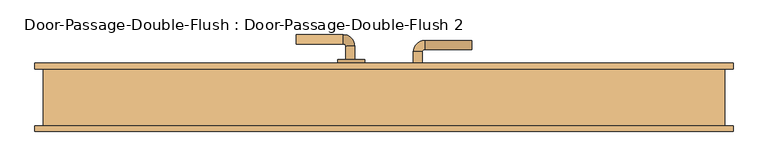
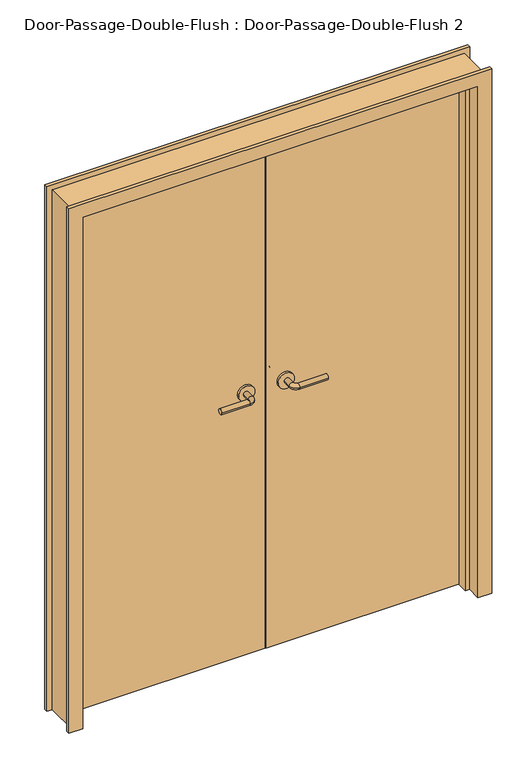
"""IFC4 building model written with IfcOpenShell, lengths in millimetres: door geometry, Door-Passage-Double-Flush : Door-Passage-Double-Flush 2."""

import ifcopenshell
import ifcopenshell.guid

model = None  # the IFC model being written
_history = None  # IfcOwnerHistory: only IFC2X3 demands one
_inside = {}  # id of a spatial element -> (the spatial element, [elements in it])
_under = {}  # id of a project, library or spatial element -> (it, [spatial elements below it])
_declared = {}  # id of a project -> (the project, [libraries it declares])
_typed = {}  # id of a type object -> (the type object, [elements of that type])
_made_of = {}  # id of a material, layer set ... -> (it, [elements and type objects made of it])


def new_model(schema):
    """Start an empty IFC model of exactly this schema.

    Asked for "IFC4X3", IfcOpenShell would pick the latest addendum, in which some entities
    have other attributes; the version numbers below select the first issue.
    IFC2X3 requires an IfcOwnerHistory on every rooted entity: one is made here for all.
    """
    global model, _history
    if schema == "IFC4X3":
        model = ifcopenshell.file(schema_version=(4, 3, 0, 0))
    else:
        model = ifcopenshell.file(schema=schema)
    _inside.clear()
    _under.clear()
    _declared.clear()
    _typed.clear()
    _made_of.clear()
    _history = None
    if model.schema == "IFC2X3":
        org = make("IfcOrganization", Name="unknown")
        user = make(
            "IfcPersonAndOrganization",
            ThePerson=make("IfcPerson", FamilyName="unknown"),
            TheOrganization=org,
        )
        app = make(
            "IfcApplication",
            ApplicationDeveloper=org,
            Version="unknown",
            ApplicationFullName="unknown",
            ApplicationIdentifier="unknown",
        )
        _history = make(
            "IfcOwnerHistory",
            OwningUser=user,
            OwningApplication=app,
            ChangeAction="ADDED",
            CreationDate=0,
        )
    return model


def make(cls, **values):
    """One entity of the class cls with the attributes given. An attribute that is None is left unset."""
    return model.create_entity(
        cls, **{name: value for name, value in values.items() if value is not None}
    )


def rooted(cls, **values):
    """An entity with a GlobalId (a new one), such as an element, a storey or a relation."""
    return make(cls, GlobalId=ifcopenshell.guid.new(), OwnerHistory=_history, **values)


def si_unit(unit_type, name, prefix=None):
    """IfcSIUnit, for example si_unit("LENGTHUNIT", "METRE", prefix="MILLI")."""
    return make("IfcSIUnit", UnitType=unit_type, Prefix=prefix, Name=name)


def assignment(units):
    """IfcUnitAssignment: the units of a project."""
    return None if units is None else make("IfcUnitAssignment", Units=units)


def point(xyz):
    """IfcCartesianPoint."""
    return None if xyz is None else make("IfcCartesianPoint", Coordinates=xyz)


def direction(xyz):
    """IfcDirection."""
    return None if xyz is None else make("IfcDirection", DirectionRatios=xyz)


def frame(location, z_axis=None, x_axis=None):
    """IfcAxis2Placement3D, a coordinate frame: its origin and axes. An axis left out is left unset."""
    return make(
        "IfcAxis2Placement3D",
        Location=point(location),
        Axis=direction(z_axis),
        RefDirection=direction(x_axis),
    )


def frame_2d(location, x_axis=None):
    """IfcAxis2Placement2D, a coordinate frame in the plane: its origin and x axis."""
    return make(
        "IfcAxis2Placement2D", Location=point(location), RefDirection=direction(x_axis)
    )


def origin():
    """The frame at (0, 0, 0) with its axes left unset."""
    return frame((0.0, 0.0, 0.0))


def origin_with_axes():
    """The frame at (0, 0, 0) with the z axis (0, 0, 1) and the x axis (1, 0, 0) written out."""
    return frame((0.0, 0.0, 0.0), z_axis=(0.0, 0.0, 1.0), x_axis=(1.0, 0.0, 0.0))


def place(relative_to, where):
    """IfcLocalPlacement: puts the frame where relative to a parent placement (None: the world)."""
    return make(
        "IfcLocalPlacement", PlacementRelTo=relative_to, RelativePlacement=where
    )


def context(
    kind, dimensions, precision=None, world=None, true_north=None, identifier=None
):
    """IfcGeometricRepresentationContext, for example the 3D "Model" context."""
    return make(
        "IfcGeometricRepresentationContext",
        ContextIdentifier=identifier,
        ContextType=kind,
        CoordinateSpaceDimension=dimensions,
        Precision=precision,
        WorldCoordinateSystem=world,
        TrueNorth=true_north,
    )


def project(units=None, contexts=None):
    """IfcProject with its units and contexts."""
    return rooted(
        "IfcProject",
        Name="project",
        RepresentationContexts=contexts,
        UnitsInContext=assignment(units),
    )


def spatial(cls, under=None, at=None, **own):
    """A site, building, storey or space (cls), placed at a placement, below another one or the project."""
    s = rooted(cls, ObjectPlacement=at, **own)
    if under is not None:
        _under.setdefault(under.id(), (under, []))[1].append(s)
    return s


def polyline(points):
    """IfcPolyline through the points."""
    return make("IfcPolyline", Points=[point(p) for p in points])


def circle_curve(where, radius):
    """IfcCircle in the frame where."""
    return make("IfcCircle", Position=where, Radius=radius)


def ellipse_curve(where, semi_axis1, semi_axis2):
    """IfcEllipse in the frame where."""
    return make(
        "IfcEllipse", Position=where, SemiAxis1=semi_axis1, SemiAxis2=semi_axis2
    )


def trimmed(basis, trim1, trim2, sense, master):
    """IfcTrimmedCurve: the piece of a basis curve between two trims."""
    return make(
        "IfcTrimmedCurve",
        BasisCurve=basis,
        Trim1=trim1,
        Trim2=trim2,
        SenseAgreement=sense,
        MasterRepresentation=master,
    )


def segment(curve, same_sense, transition):
    """IfcCompositeCurveSegment."""
    return make(
        "IfcCompositeCurveSegment",
        Transition=transition,
        SameSense=same_sense,
        ParentCurve=curve,
    )


def composite_curve(segments, self_intersect=None):
    """IfcCompositeCurve: segments joined end to end."""
    return make("IfcCompositeCurve", Segments=segments, SelfIntersect=self_intersect)


def outline(outer, holes=None, kind="AREA"):
    """IfcArbitraryClosedProfileDef: a profile drawn as a closed curve; with holes, ...WithVoids."""
    if holes is None:
        return make("IfcArbitraryClosedProfileDef", ProfileType=kind, OuterCurve=outer)
    return make(
        "IfcArbitraryProfileDefWithVoids",
        ProfileType=kind,
        OuterCurve=outer,
        InnerCurves=holes,
    )


def extrude(swept, where, along, depth):
    """IfcExtrudedAreaSolid: the profile swept, set in the frame where, extruded along a direction by depth."""
    return make(
        "IfcExtrudedAreaSolid",
        SweptArea=swept,
        Position=where,
        ExtrudedDirection=direction(along),
        Depth=depth,
    )


def faces_of(points, faces, orient=None, outer=None):
    """IfcFace entities. A face is a list of loops; a loop is a list of indices into points, from 0.

    orient and outer hold one flag for each loop. By default every Orientation is true, the
    first loop of a face is its IfcFaceOuterBound and the others are IfcFaceBound.
    """
    made = []
    for i, loops in enumerate(faces):
        bounds = []
        for j, loop in enumerate(loops):
            is_outer = j == 0 if outer is None else outer[i][j]
            bounds.append(
                make(
                    "IfcFaceOuterBound" if is_outer else "IfcFaceBound",
                    Bound=make("IfcPolyLoop", Polygon=[points[k] for k in loop]),
                    Orientation=True if orient is None else orient[i][j],
                )
            )
        made.append(make("IfcFace", Bounds=bounds))
    return made


def faceted_brep(points, faces, orient=None, outer=None, voids=None):
    """IfcFacetedBrep: a solid bounded by flat faces; with voids (closed shells), ...WithVoids."""
    shared = [point(p) for p in points]
    hull = make("IfcClosedShell", CfsFaces=faces_of(shared, faces, orient, outer))
    if voids is None:
        return make("IfcFacetedBrep", Outer=hull)
    return make(
        "IfcFacetedBrepWithVoids",
        Outer=hull,
        Voids=[
            make(cls, CfsFaces=faces_of(shared, fs, o, b)) for cls, fs, o, b in voids
        ],
    )


def shape(context_of_items, identifier, shape_type, items):
    """IfcShapeRepresentation: the items that make up one representation, for example the "Body"."""
    return make(
        "IfcShapeRepresentation",
        ContextOfItems=context_of_items,
        RepresentationIdentifier=identifier,
        RepresentationType=shape_type,
        Items=items,
    )


def source(mapping_origin, context_of_items, identifier, shape_type, items):
    """IfcRepresentationMap: a shape defined once, which mapped items show again and again."""
    return make(
        "IfcRepresentationMap",
        MappingOrigin=mapping_origin,
        MappedRepresentation=shape(context_of_items, identifier, shape_type, items),
    )


def transform(
    local_origin,
    x_axis=None,
    y_axis=None,
    z_axis=None,
    scale=None,
    scale2=None,
    scale3=None,
    uniform=True,
):
    """IfcCartesianTransformationOperator3D, or its non-uniform kind. x_axis, y_axis, z_axis: its Axis1, 2, 3."""
    if uniform:
        return make(
            "IfcCartesianTransformationOperator3D",
            Axis1=direction(x_axis),
            Axis2=direction(y_axis),
            LocalOrigin=point(local_origin),
            Scale=scale,
            Axis3=direction(z_axis),
        )
    return make(
        "IfcCartesianTransformationOperator3DnonUniform",
        Axis1=direction(x_axis),
        Axis2=direction(y_axis),
        LocalOrigin=point(local_origin),
        Scale=scale,
        Axis3=direction(z_axis),
        Scale2=scale2,
        Scale3=scale3,
    )


def mapped(mapping_source, mapping_target):
    """IfcMappedItem: shows the shape of a source again, moved by a transform."""
    return make(
        "IfcMappedItem", MappingSource=mapping_source, MappingTarget=mapping_target
    )


def made_of(thing, what):
    """Note that an element or type object is made of a material, layer set ...; save() writes the relation."""
    if what is not None:
        _made_of.setdefault(what.id(), (what, []))[1].append(thing)
    return thing


def element(
    cls,
    number,
    at=None,
    inside=None,
    cuts=None,
    type_object=None,
    material=None,
    context=None,
    identifier="Body",
    shape_type=None,
    held_by="IfcProductDefinitionShape",
    body=None,
    shapes=None,
    **own,
):
    """One element of the class cls, such as IfcWall. Its Tag is "e" and its number.

    at: its placement. inside: the storey or other place that contains it. cuts: it is an
    opening in that element (IfcRelVoidsElement). A single representation is given by context,
    identifier, shape_type and body (its items); several are given by shapes. held_by: the class
    of the entity that holds the representations. save() writes the other relations.
    """
    e = rooted(cls, Tag="e%d" % number, ObjectPlacement=at, **own)
    if body is not None:
        shapes = [shape(context, identifier, shape_type, body)]
    if shapes is not None:
        e.Representation = make(held_by, Representations=shapes)
    if inside is not None:
        _inside.setdefault(inside.id(), (inside, []))[1].append(e)
    if cuts is not None:
        rooted(
            "IfcRelVoidsElement", RelatingBuildingElement=cuts, RelatedOpeningElement=e
        )
    if type_object is not None:
        _typed.setdefault(type_object.id(), (type_object, []))[1].append(e)
    return made_of(e, material)


def aggregate(whole, parts):
    """IfcRelAggregates: a whole, such as a stair, and the parts it consists of."""
    return rooted("IfcRelAggregates", RelatingObject=whole, RelatedObjects=parts)


def save(model, path):
    """Write the relations noted so far, then the file.

    IfcRelAggregates (storeys below a building ...), IfcRelContainedInSpatialStructure (elements
    in a storey), IfcRelDefinesByType, IfcRelAssociatesMaterial and IfcRelDeclares: one each for
    every whole, place, type object, material and project.
    """
    for whole, parts in _under.values():
        aggregate(whole, parts)
    for where, things in _inside.values():
        rooted(
            "IfcRelContainedInSpatialStructure",
            RelatedElements=things,
            RelatingStructure=where,
        )
    for kind, things in _typed.values():
        rooted("IfcRelDefinesByType", RelatedObjects=things, RelatingType=kind)
    for what, things in _made_of.values():
        rooted("IfcRelAssociatesMaterial", RelatedObjects=things, RelatingMaterial=what)
    for by, libraries in _declared.values():
        rooted("IfcRelDeclares", RelatingContext=by, RelatedDefinitions=libraries)
    model.write(path)


def plane_surface(at):
    """IfcPlane: the flat surface through the origin of the frame at, square to its z axis."""
    return make("IfcPlane", Position=at)


def cylinder_surface(at, radius):
    """IfcCylindricalSurface: all points at the distance radius from the z axis of the frame at."""
    return make("IfcCylindricalSurface", Position=at, Radius=radius)


def revolved_surface(curve, axis_point, axis_direction):
    """IfcSurfaceOfRevolution: the curve turned about the line through axis_point along axis_direction."""
    return make(
        "IfcSurfaceOfRevolution",
        SweptCurve=make("IfcArbitraryOpenProfileDef", ProfileType="CURVE", Curve=curve),
        AxisPosition=make("IfcAxis1Placement", Location=point(axis_point), Axis=direction(axis_direction)),
    )


def advanced_brep(points, edges, surfaces, faces):
    """IfcAdvancedBrep: a solid bounded by faces that lie on surfaces and meet in shared edges.

    An edge is (start, end): straight between two places in points (the first is 0);
    or (start, end, curve); or (start, end, curve, False) where it runs against its curve.
    A face is (place in surfaces, loops), or (place, loops, False) where it looks against
    its surface's normal. A loop lists edges by number (the first is 1), with a minus sign
    where the edge is run from its end to its start. The first loop is the outer one.
    """
    corners = [point(p) for p in points]
    vertices = [make("IfcVertexPoint", VertexGeometry=c) for c in corners]
    made = []
    for start, end, *more in edges:
        made.append(
            make(
                "IfcEdgeCurve",
                EdgeStart=vertices[start],
                EdgeEnd=vertices[end],
                EdgeGeometry=more[0] if more else make("IfcPolyline", Points=[corners[start], corners[end]]),
                SameSense=more[1] if len(more) > 1 else True,
            )
        )
    hull = []
    for where, loops, *sense in faces:
        bounds = []
        for j, loop in enumerate(loops):
            ring = [make("IfcOrientedEdge", EdgeElement=made[abs(k) - 1], Orientation=k > 0) for k in loop]
            bounds.append(
                make(
                    "IfcFaceOuterBound" if j == 0 else "IfcFaceBound",
                    Bound=make("IfcEdgeLoop", EdgeList=ring),
                    Orientation=True,
                )
            )
        hull.append(make("IfcAdvancedFace", Bounds=bounds, FaceSurface=surfaces[where], SameSense=sense[0] if sense else True))
    return make("IfcAdvancedBrep", Outer=make("IfcClosedShell", CfsFaces=hull))


def door_passage_double_flush_door_passage_double_flush_2_6934cd5b(model_context):
    return source(origin(), model_context, "Body", "SolidModel", [
        advanced_brep(
        [(-65.009375, 17.4, 1016.0), (-85.009375, 17.4, 1016.0), (-65.009375, -12.6, 1016.0), (-85.009375, -12.6, 1016.0), (-90.009375, -17.6, 1016.0), (-90.009375, -37.6, 1016.0), (-195.009375, -37.6, 1016.0), (-195.009375, -17.6, 1016.0)],
        [
            (0, 1, circle_curve(frame((-75.009375, 17.4, 1016.0), z_axis=(0.0, 1.0, 0.0), x_axis=(-1.0, 0.0, 0.0)), 10.0)),
            (1, 0, circle_curve(frame((-75.009375, 17.4, 1016.0), z_axis=(0.0, 1.0, 0.0), x_axis=(-1.0, 0.0, 0.0)), 10.0)),
            (0, 2),
            (2, 3, circle_curve(frame((-75.009375, -12.6, 1016.0), z_axis=(0.0, 1.0, 0.0), x_axis=(-1.0, 0.0, 0.0)), 10.0)),
            (3, 1),
            (3, 2, circle_curve(frame((-75.009375, -12.6, 1016.0), z_axis=(0.0, 1.0, 0.0), x_axis=(-1.0, 0.0, 0.0)), 10.0)),
            (4, 3, circle_curve(frame((-90.009375, -12.6, 1016.0), z_axis=(0.0, 0.0, 1.0), x_axis=(1.0, 0.0, 0.0)), 5.0)),
            (2, 5, circle_curve(frame((-90.009375, -12.6, 1016.0), z_axis=(0.0, 0.0, -1.0), x_axis=(1.0, 0.0, 0.0)), 25.0)),
            (5, 4, circle_curve(frame((-90.009375, -27.6, 1016.0), z_axis=(1.0, 0.0, 0.0), x_axis=(0.0, 1.0, 0.0)), 10.0)),
            (4, 5, circle_curve(frame((-90.009375, -27.6, 1016.0), z_axis=(1.0, 0.0, 0.0), x_axis=(0.0, 1.0, 0.0)), 10.0)),
            (6, 7, circle_curve(frame((-195.009375, -27.6, 1016.0), z_axis=(-1.0, 0.0, 0.0), x_axis=(0.0, 1.0, 0.0)), 10.0)),
            (7, 6, circle_curve(frame((-195.009375, -27.6, 1016.0), z_axis=(-1.0, 0.0, 0.0), x_axis=(0.0, 1.0, 0.0)), 10.0)),
            (5, 6),
            (7, 4),
        ],
        [
            plane_surface(frame((-75.009375, 17.4, 1016.0), z_axis=(0.0, 1.0, 0.0), x_axis=(0.0, 0.0, 1.0))),
            cylinder_surface(frame((-75.009375, 17.4, 1016.0), z_axis=(0.0, 1.0, 0.0), x_axis=(-1.0, 0.0, 0.0)), 10.0),
            revolved_surface(trimmed(ellipse_curve(frame((-75.009375, -12.6, 1016.0), z_axis=(0.0, 1.0, 0.0), x_axis=(-1.0, 0.0, 0.0)), 10.0, 10.0), [point((-65.009375, -12.6, 1016.0))], [point((-85.009375, -12.6, 1016.0))], True, "CARTESIAN"), (-90.009375, -12.6, 1016.0), (0.0, 0.0, -1.0)),
            revolved_surface(trimmed(ellipse_curve(frame((-75.009375, -12.6, 1016.0), z_axis=(0.0, 1.0, 0.0), x_axis=(-1.0, 0.0, 0.0)), 10.0, 10.0), [point((-85.009375, -12.6, 1016.0))], [point((-65.009375, -12.6, 1016.0))], True, "CARTESIAN"), (-90.009375, -12.6, 1016.0), (0.0, 0.0, -1.0)),
            plane_surface(frame((-195.009375, -27.6, 1016.0), z_axis=(-1.0, 0.0, 0.0), x_axis=(0.0, 0.0, 1.0))),
            cylinder_surface(frame((-90.009375, -27.6, 1016.0), z_axis=(1.0, 0.0, 0.0), x_axis=(0.0, 1.0, 0.0)), 10.0),
        ],
        [
            (0, [[1, 2]]),
            (1, [[-1, 3, 4, 5]]),
            (1, [[-2, -5, 6, -3]]),
            (2, [[7, -4, 8, 9]]),
            (3, [[-8, -6, -7, 10]]),
            (4, [[11, 12]]),
            (5, [[-9, 13, -12, 14]]),
            (5, [[-10, -14, -11, -13]]),
        ],
    ),
        extrude(outline(composite_curve([segment(trimmed(circle_curve(frame_2d((1016.0, -72.509375)), 30.0), [point((1016.0, -42.509375))], [point((1016.0, -102.509375))], False, "CARTESIAN"), True, "CONTINUOUS"), segment(trimmed(circle_curve(frame_2d((1016.0, -72.509375)), 30.0), [point((1016.0, -102.509375))], [point((1016.0, -42.509375))], False, "CARTESIAN"), True, "CONTINUOUS")], self_intersect=False)), frame((0.0, 17.4, 0.0), z_axis=(0.0, 1.0, 0.0), x_axis=(0.0, 0.0, 1.0)), (0.0, 0.0, 1.0), 8.0),
        advanced_brep(
        [(-65.009375, 90.55, 1016.0), (-85.009375, 90.55, 1016.0), (-85.009375, 120.55, 1016.0), (-65.009375, 120.55, 1016.0), (-90.009375, 125.55, 1016.0), (-90.009375, 145.55, 1016.0), (-195.009375, 145.55, 1016.0), (-195.009375, 125.55, 1016.0)],
        [
            (0, 1, circle_curve(frame((-75.009375, 90.55, 1016.0), z_axis=(0.0, -1.0, 0.0), x_axis=(-1.0, 0.0, 0.0)), 10.0)),
            (1, 0, circle_curve(frame((-75.009375, 90.55, 1016.0), z_axis=(0.0, -1.0, 0.0), x_axis=(-1.0, 0.0, 0.0)), 10.0)),
            (1, 2),
            (2, 3, circle_curve(frame((-75.009375, 120.55, 1016.0), z_axis=(0.0, -1.0, 0.0), x_axis=(-1.0, 0.0, 0.0)), 10.0)),
            (3, 0),
            (3, 2, circle_curve(frame((-75.009375, 120.55, 1016.0), z_axis=(0.0, -1.0, 0.0), x_axis=(-1.0, 0.0, 0.0)), 10.0)),
            (4, 5, circle_curve(frame((-90.009375, 135.55, 1016.0), z_axis=(1.0, 0.0, 0.0), x_axis=(0.0, -1.0, 0.0)), 10.0)),
            (5, 3, circle_curve(frame((-90.009375, 120.55, 1016.0), z_axis=(0.0, 0.0, -1.0), x_axis=(1.0, 0.0, 0.0)), 25.0)),
            (2, 4, circle_curve(frame((-90.009375, 120.55, 1016.0), z_axis=(0.0, 0.0, 1.0), x_axis=(1.0, 0.0, 0.0)), 5.0)),
            (5, 4, circle_curve(frame((-90.009375, 135.55, 1016.0), z_axis=(1.0, 0.0, 0.0), x_axis=(0.0, -1.0, 0.0)), 10.0)),
            (6, 7, circle_curve(frame((-195.009375, 135.55, 1016.0), z_axis=(-1.0, 0.0, 0.0), x_axis=(0.0, -1.0, 0.0)), 10.0)),
            (7, 6, circle_curve(frame((-195.009375, 135.55, 1016.0), z_axis=(-1.0, 0.0, 0.0), x_axis=(0.0, -1.0, 0.0)), 10.0)),
            (4, 7),
            (6, 5),
        ],
        [
            plane_surface(frame((-75.009375, 90.55, 1016.0), z_axis=(0.0, -1.0, 0.0), x_axis=(0.0, 0.0, 1.0))),
            cylinder_surface(frame((-75.009375, 90.55, 1016.0), z_axis=(0.0, -1.0, 0.0), x_axis=(-1.0, 0.0, 0.0)), 10.0),
            revolved_surface(trimmed(ellipse_curve(frame((-75.009375, 120.55, 1016.0), z_axis=(0.0, 1.0, 0.0), x_axis=(-1.0, 0.0, 0.0)), 10.0, 10.0), [point((-65.009375, 120.55, 1016.0))], [point((-85.009375, 120.55, 1016.0))], True, "CARTESIAN"), (-90.009375, 120.55, 1016.0), (0.0, 0.0, -1.0)),
            revolved_surface(trimmed(ellipse_curve(frame((-75.009375, 120.55, 1016.0), z_axis=(0.0, 1.0, 0.0), x_axis=(-1.0, 0.0, 0.0)), 10.0, 10.0), [point((-85.009375, 120.55, 1016.0))], [point((-65.009375, 120.55, 1016.0))], True, "CARTESIAN"), (-90.009375, 120.55, 1016.0), (0.0, 0.0, -1.0)),
            plane_surface(frame((-195.009375, 135.55, 1016.0), z_axis=(-1.0, 0.0, 0.0), x_axis=(0.0, 0.0, 1.0))),
            cylinder_surface(frame((-90.009375, 135.55, 1016.0), z_axis=(1.0, 0.0, 0.0), x_axis=(0.0, -1.0, 0.0)), 10.0),
        ],
        [
            (0, [[1, 2]]),
            (1, [[3, 4, 5, -2]]),
            (1, [[-5, 6, -3, -1]]),
            (2, [[7, 8, -4, 9]]),
            (3, [[10, -9, -6, -8]]),
            (4, [[11, 12]]),
            (5, [[13, -11, 14, -7]]),
            (5, [[-14, -12, -13, -10]]),
        ],
    ),
        extrude(outline(composite_curve([segment(trimmed(circle_curve(frame_2d((1016.0, -72.509375)), 30.0), [point((1016.0, -42.509375))], [point((1016.0, -102.509375))], False, "CARTESIAN"), True, "CONTINUOUS"), segment(trimmed(circle_curve(frame_2d((1016.0, -72.509375)), 30.0), [point((1016.0, -102.509375))], [point((1016.0, -42.509375))], False, "CARTESIAN"), True, "CONTINUOUS")], self_intersect=False)), frame((0.0, 82.55, 0.0), z_axis=(0.0, 1.0, 0.0), x_axis=(0.0, 0.0, 1.0)), (0.0, 0.0, 1.0), 8.0),
        advanced_brep(
        [(65.009375, 17.4, 1016.0), (85.009375, 17.4, 1016.0), (85.009375, -12.6, 1016.0), (65.009375, -12.6, 1016.0), (90.009375, -17.6, 1016.0), (90.009375, -37.6, 1016.0), (195.009375, -37.6, 1016.0), (195.009375, -17.6, 1016.0)],
        [
            (0, 1, circle_curve(frame((75.009375, 17.4, 1016.0), z_axis=(0.0, 1.0, 0.0), x_axis=(1.0, 0.0, 0.0)), 10.0)),
            (1, 0, circle_curve(frame((75.009375, 17.4, 1016.0), z_axis=(0.0, 1.0, 0.0), x_axis=(1.0, 0.0, 0.0)), 10.0)),
            (1, 2),
            (2, 3, circle_curve(frame((75.009375, -12.6, 1016.0), z_axis=(0.0, 1.0, 0.0), x_axis=(1.0, 0.0, 0.0)), 10.0)),
            (3, 0),
            (3, 2, circle_curve(frame((75.009375, -12.6, 1016.0), z_axis=(0.0, 1.0, 0.0), x_axis=(1.0, 0.0, 0.0)), 10.0)),
            (4, 5, circle_curve(frame((90.009375, -27.6, 1016.0), z_axis=(-1.0, 0.0, 0.0), x_axis=(0.0, 1.0, 0.0)), 10.0)),
            (5, 3, circle_curve(frame((90.009375, -12.6, 1016.0), z_axis=(0.0, 0.0, -1.0), x_axis=(-1.0, 0.0, 0.0)), 25.0)),
            (2, 4, circle_curve(frame((90.009375, -12.6, 1016.0), z_axis=(0.0, 0.0, 1.0), x_axis=(-1.0, 0.0, 0.0)), 5.0)),
            (5, 4, circle_curve(frame((90.009375, -27.6, 1016.0), z_axis=(-1.0, 0.0, 0.0), x_axis=(0.0, 1.0, 0.0)), 10.0)),
            (6, 7, circle_curve(frame((195.009375, -27.6, 1016.0), z_axis=(1.0, 0.0, 0.0), x_axis=(0.0, 1.0, 0.0)), 10.0)),
            (7, 6, circle_curve(frame((195.009375, -27.6, 1016.0), z_axis=(1.0, 0.0, 0.0), x_axis=(0.0, 1.0, 0.0)), 10.0)),
            (4, 7),
            (6, 5),
        ],
        [
            plane_surface(frame((75.009375, 17.4, 1016.0), z_axis=(0.0, 1.0, 0.0), x_axis=(0.0, 0.0, 1.0))),
            cylinder_surface(frame((75.009375, 17.4, 1016.0), z_axis=(0.0, 1.0, 0.0), x_axis=(1.0, 0.0, 0.0)), 10.0),
            revolved_surface(trimmed(ellipse_curve(frame((75.009375, -12.6, 1016.0), z_axis=(0.0, -1.0, 0.0), x_axis=(1.0, 0.0, 0.0)), 10.0, 10.0), [point((65.009375, -12.6, 1016.0))], [point((85.009375, -12.6, 1016.0))], True, "CARTESIAN"), (90.009375, -12.6, 1016.0), (0.0, 0.0, -1.0)),
            revolved_surface(trimmed(ellipse_curve(frame((75.009375, -12.6, 1016.0), z_axis=(0.0, -1.0, 0.0), x_axis=(1.0, 0.0, 0.0)), 10.0, 10.0), [point((85.009375, -12.6, 1016.0))], [point((65.009375, -12.6, 1016.0))], True, "CARTESIAN"), (90.009375, -12.6, 1016.0), (0.0, 0.0, -1.0)),
            plane_surface(frame((195.009375, -27.6, 1016.0), z_axis=(1.0, 0.0, 0.0), x_axis=(0.0, 0.0, 1.0))),
            cylinder_surface(frame((90.009375, -27.6, 1016.0), z_axis=(-1.0, 0.0, 0.0), x_axis=(0.0, 1.0, 0.0)), 10.0),
        ],
        [
            (0, [[1, 2]]),
            (1, [[3, 4, 5, -2]]),
            (1, [[-5, 6, -3, -1]]),
            (2, [[7, 8, -4, 9]]),
            (3, [[10, -9, -6, -8]]),
            (4, [[11, 12]]),
            (5, [[13, -11, 14, -7]]),
            (5, [[-14, -12, -13, -10]]),
        ],
    ),
        extrude(outline(composite_curve([segment(trimmed(circle_curve(frame_2d((1016.0, 72.509375)), 30.0), [point((1016.0, 42.509375))], [point((1016.0, 102.509375))], False, "CARTESIAN"), True, "CONTINUOUS"), segment(trimmed(circle_curve(frame_2d((1016.0, 72.509375)), 30.0), [point((1016.0, 102.509375))], [point((1016.0, 42.509375))], False, "CARTESIAN"), True, "CONTINUOUS")], self_intersect=False)), frame((0.0, 17.4, 0.0), z_axis=(0.0, 1.0, 0.0), x_axis=(0.0, 0.0, 1.0)), (0.0, 0.0, 1.0), 8.0),
        advanced_brep(
        [(65.009375, 77.85, 1016.0), (85.009375, 77.85, 1016.0), (65.009375, 107.85, 1016.0), (85.009375, 107.85, 1016.0), (90.009375, 112.85, 1016.0), (90.009375, 132.85, 1016.0), (195.009375, 132.85, 1016.0), (195.009375, 112.85, 1016.0)],
        [
            (0, 1, circle_curve(frame((75.009375, 77.85, 1016.0), z_axis=(0.0, -1.0, 0.0), x_axis=(1.0, 0.0, 0.0)), 10.0)),
            (1, 0, circle_curve(frame((75.009375, 77.85, 1016.0), z_axis=(0.0, -1.0, 0.0), x_axis=(1.0, 0.0, 0.0)), 10.0)),
            (0, 2),
            (2, 3, circle_curve(frame((75.009375, 107.85, 1016.0), z_axis=(0.0, -1.0, 0.0), x_axis=(1.0, 0.0, 0.0)), 10.0)),
            (3, 1),
            (3, 2, circle_curve(frame((75.009375, 107.85, 1016.0), z_axis=(0.0, -1.0, 0.0), x_axis=(1.0, 0.0, 0.0)), 10.0)),
            (4, 3, circle_curve(frame((90.009375, 107.85, 1016.0), z_axis=(0.0, 0.0, 1.0), x_axis=(-1.0, 0.0, 0.0)), 5.0)),
            (2, 5, circle_curve(frame((90.009375, 107.85, 1016.0), z_axis=(0.0, 0.0, -1.0), x_axis=(-1.0, 0.0, 0.0)), 25.0)),
            (5, 4, circle_curve(frame((90.009375, 122.85, 1016.0), z_axis=(-1.0, 0.0, 0.0), x_axis=(0.0, -1.0, 0.0)), 10.0)),
            (4, 5, circle_curve(frame((90.009375, 122.85, 1016.0), z_axis=(-1.0, 0.0, 0.0), x_axis=(0.0, -1.0, 0.0)), 10.0)),
            (6, 7, circle_curve(frame((195.009375, 122.85, 1016.0), z_axis=(1.0, 0.0, 0.0), x_axis=(0.0, -1.0, 0.0)), 10.0)),
            (7, 6, circle_curve(frame((195.009375, 122.85, 1016.0), z_axis=(1.0, 0.0, 0.0), x_axis=(0.0, -1.0, 0.0)), 10.0)),
            (5, 6),
            (7, 4),
        ],
        [
            plane_surface(frame((75.009375, 77.85, 1016.0), z_axis=(0.0, -1.0, 0.0), x_axis=(0.0, 0.0, 1.0))),
            cylinder_surface(frame((75.009375, 77.85, 1016.0), z_axis=(0.0, -1.0, 0.0), x_axis=(1.0, 0.0, 0.0)), 10.0),
            revolved_surface(trimmed(ellipse_curve(frame((75.009375, 107.85, 1016.0), z_axis=(0.0, -1.0, 0.0), x_axis=(1.0, 0.0, 0.0)), 10.0, 10.0), [point((65.009375, 107.85, 1016.0))], [point((85.009375, 107.85, 1016.0))], True, "CARTESIAN"), (90.009375, 107.85, 1016.0), (0.0, 0.0, -1.0)),
            revolved_surface(trimmed(ellipse_curve(frame((75.009375, 107.85, 1016.0), z_axis=(0.0, -1.0, 0.0), x_axis=(1.0, 0.0, 0.0)), 10.0, 10.0), [point((85.009375, 107.85, 1016.0))], [point((65.009375, 107.85, 1016.0))], True, "CARTESIAN"), (90.009375, 107.85, 1016.0), (0.0, 0.0, -1.0)),
            plane_surface(frame((195.009375, 122.85, 1016.0), z_axis=(1.0, 0.0, 0.0), x_axis=(0.0, 0.0, 1.0))),
            cylinder_surface(frame((90.009375, 122.85, 1016.0), z_axis=(-1.0, 0.0, 0.0), x_axis=(0.0, -1.0, 0.0)), 10.0),
        ],
        [
            (0, [[1, 2]]),
            (1, [[-1, 3, 4, 5]]),
            (1, [[-2, -5, 6, -3]]),
            (2, [[7, -4, 8, 9]]),
            (3, [[-8, -6, -7, 10]]),
            (4, [[11, 12]]),
            (5, [[-9, 13, -12, 14]]),
            (5, [[-10, -14, -11, -13]]),
        ],
    ),
        extrude(outline(composite_curve([segment(trimmed(circle_curve(frame_2d((1016.0, 72.509375)), 30.0), [point((1016.0, 42.509375))], [point((1016.0, 102.509375))], False, "CARTESIAN"), True, "CONTINUOUS"), segment(trimmed(circle_curve(frame_2d((1016.0, 72.509375)), 30.0), [point((1016.0, 102.509375))], [point((1016.0, 42.509375))], False, "CARTESIAN"), True, "CONTINUOUS")], self_intersect=False)), frame((0.0, 69.85, 0.0), z_axis=(0.0, 1.0, 0.0), x_axis=(0.0, 0.0, 1.0)), (0.0, 0.0, 1.0), 8.0),
        faceted_brep([(723.9, 82.55, 0.0), (774.7, 82.55, 0.0), (774.7, 69.85, 0.0), (755.65, 69.85, 0.0), (755.65, -57.15, 0.0), (774.7, -57.15, 0.0), (774.7, -69.85, 0.0), (723.9, -69.85, 0.0), (723.9, -17.4625, 0.0), (708.025, -17.4625, 0.0), (708.025, 20.6375, 0.0), (723.9, 20.6375, 0.0), (723.9, 82.55, 1981.2), (-723.9, 82.55, 1981.2), (-723.9, 82.55, 0.0), (-774.7, 82.55, 0.0), (-774.7, 82.55, 2032.0), (774.7, 82.55, 2032.0), (774.7, 69.85, 2032.0), (-774.7, 69.85, 2032.0), (-774.7, 69.85, 0.0), (-755.65, 69.85, 0.0), (-755.65, 69.85, 2012.95), (755.65, 69.85, 2012.95), (755.65, -57.15, 2012.95), (-755.65, -57.15, 2012.95), (-755.65, -57.15, 0.0), (-774.7, -57.15, 0.0), (-774.7, -57.15, 2032.0), (774.7, -57.15, 2032.0), (774.7, -69.85, 2032.0), (-774.7, -69.85, 2032.0), (-774.7, -69.85, 0.0), (-723.9, -69.85, 0.0), (-723.9, -69.85, 1981.2), (723.9, -69.85, 1981.2), (723.9, -17.4625, 1981.2), (-723.9, -17.4625, 1981.2), (-723.9, -17.4625, 0.0), (-708.025, -17.4625, 0.0), (-708.025, -17.4625, 1965.325), (708.025, -17.4625, 1965.325), (708.025, 20.6375, 1965.325), (-708.025, 20.6375, 1965.325), (-708.025, 20.6375, 0.0), (-723.9, 20.6375, 0.0), (-723.9, 20.6375, 1981.2), (723.9, 20.6375, 1981.2)], [[[0, 1, 2, 3, 4, 5, 6, 7, 8, 9, 10, 11]], [[1, 0, 12, 13, 14, 15, 16, 17]], [[2, 1, 17, 18]], [[3, 2, 18, 19, 20, 21, 22, 23]], [[4, 3, 23, 24]], [[5, 4, 24, 25, 26, 27, 28, 29]], [[6, 5, 29, 30]], [[7, 6, 30, 31, 32, 33, 34, 35]], [[8, 7, 35, 36]], [[9, 8, 36, 37, 38, 39, 40, 41]], [[10, 9, 41, 42]], [[11, 10, 42, 43, 44, 45, 46, 47]], [[0, 11, 47, 12]], [[18, 17, 16, 19]], [[24, 23, 22, 25]], [[30, 29, 28, 31]], [[36, 35, 34, 37]], [[42, 41, 40, 43]], [[12, 47, 46, 13]], [[14, 45, 44, 39, 38, 33, 32, 27, 26, 21, 20, 15]], [[19, 16, 15, 20]], [[25, 22, 21, 26]], [[31, 28, 27, 32]], [[37, 34, 33, 38]], [[43, 40, 39, 44]], [[13, 46, 45, 14]]]),
        extrude(outline(polyline([(723.9, 25.4), (1.5875, 25.4), (1.5875, 82.55), (723.9, 82.55), (723.9, 25.4)])), origin_with_axes(), (0.0, 0.0, 1.0), 1981.2),
        extrude(outline(polyline([(-1.5875, 25.4), (-723.9, 25.4), (-723.9, 82.55), (-1.5875, 82.55), (-1.5875, 25.4)])), origin_with_axes(), (0.0, 0.0, 1.0), 1981.2),
    ])


if __name__ == "__main__":
    model = new_model("IFC4")
    model_context = context("Model", 3, world=origin())
    ifc_project = project(units=[si_unit("LENGTHUNIT", "METRE", prefix="MILLI")], contexts=[model_context])
    site = spatial("IfcSite", under=ifc_project)
    building = spatial("IfcBuilding", under=site)
    placement = place(None, origin())
    door_passage_double_flush_door_passage_double_flush_2_shape = door_passage_double_flush_door_passage_double_flush_2_6934cd5b(model_context)
    element("IfcDoor", 1, ObjectType="Door-Passage-Double-Flush : Door-Passage-Double-Flush 2", at=placement, inside=building, context=model_context, shape_type="MappedRepresentation", body=[
        mapped(door_passage_double_flush_door_passage_double_flush_2_shape, transform((0.0, 0.0, 0.0), x_axis=(1.0, 0.0, 0.0), y_axis=(0.0, 1.0, 0.0), z_axis=(0.0, 0.0, 1.0))),
    ])
    save(model, "model.ifc")
